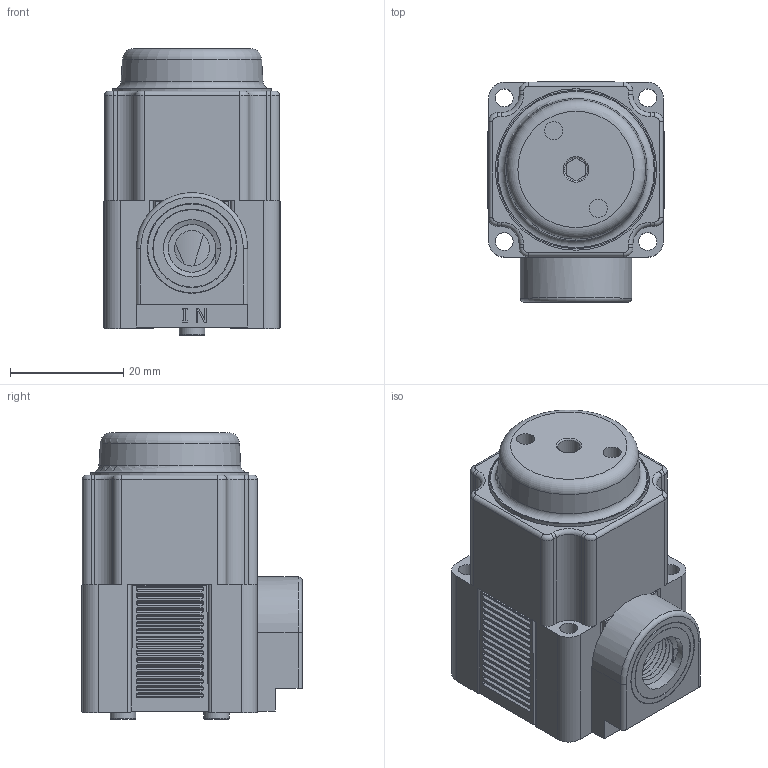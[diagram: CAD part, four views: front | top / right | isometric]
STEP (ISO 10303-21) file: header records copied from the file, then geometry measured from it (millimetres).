
FILE_DESCRIPTION(/* description */ (''),/* implementation_level */ '2;1');
FILE_NAME(/* name */ 'K:\Normteile INVENTOR\Air-Logic\Regulators\PR6000\PR 6___ 1 1''8-27 NPT Threads In.igs.ipt.stp',/* time_stamp */ '2020-05-27T10:52:16+02:00',/* author */ ('Paul'),/* organization */ (''),/* preprocessor_version */ 'ST-DEVELOPER v18',/* originating_system */ 'Autodesk Inventor 2020',/* authorisation */ '');
FILE_SCHEMA (('AUTOMOTIVE_DESIGN { 1 0 10303 214 3 1 1 }'));
Length unit declared in the file: inch
Products named in the file (1): PR 6___ 1 1'8-27 NPT Threads In.igs
Bounding box: 31.19 x 39.06 x 50.78 mm (x, y, z)
Volume: 41231.7 mm3; surface area: 14181.2 mm2
Topology: 1 solids, 1 shells, 704 faces, 1827 edges, 1204 vertices
Faces by surface type: plane 361, cylinder 288, torus 30, bspline 22, cone 3
Full cylindrical faces by diameter (mm): 1.194 x1, 2.032 x1, 3.124 x2, 3.175 x8, 3.226 x2, 4.013 x1, 4.521 x2, 6.248 x1, 8.382 x2, 8.458 x7, 9.169 x1, 9.652 x1, 10.163 x7, 12.903 x1, 13.716 x1, 13.872 x1, 15.707 x1, 15.913 x1, 25.781 x1, 28.047 x1, 28.575 x1
Entity records: 28186 total; most frequent: CARTESIAN_POINT 9751, DIRECTION 3838, ORIENTED_EDGE 3654, EDGE_CURVE 1827, AXIS2_PLACEMENT_3D 1502, VERTEX_POINT 1204, LINE 834, VECTOR 834
